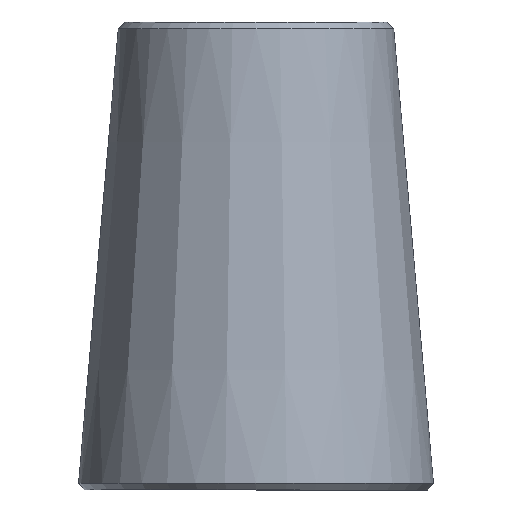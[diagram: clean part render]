
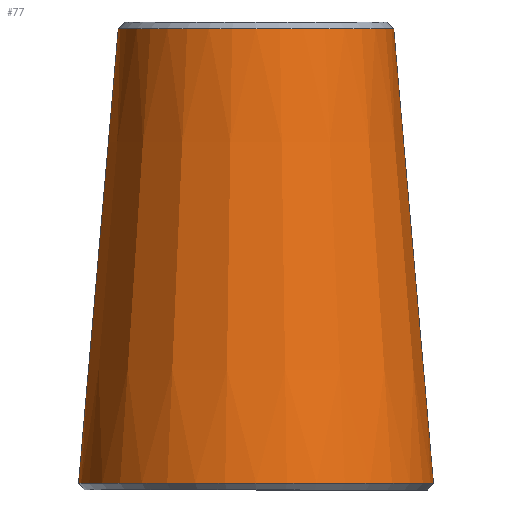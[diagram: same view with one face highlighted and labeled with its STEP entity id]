
A CAD part, left-side view. The second image highlights one B-rep face of the part: STEP entity #77.
In plain terms, the highlighted conical face has half-angle 5 degrees and reference radius 46.463 mm.
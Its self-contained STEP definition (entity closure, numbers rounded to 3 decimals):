
#20=FACE_BOUND('',#34,.T.);
#25=FACE_OUTER_BOUND('',#33,.T.);
#33=EDGE_LOOP('',(#63));
#34=EDGE_LOOP('',(#64));
#44=CIRCLE('',#87,52.326);
#45=CIRCLE('',#89,40.601);
#50=VERTEX_POINT('',#130);
#51=VERTEX_POINT('',#133);
#56=EDGE_CURVE('',#50,#50,#44,.T.);
#57=EDGE_CURVE('',#51,#51,#45,.T.);
#63=ORIENTED_EDGE('',*,*,#57,.F.);
#64=ORIENTED_EDGE('',*,*,#56,.F.);
#74=CONICAL_SURFACE('',#88,46.463,5.);
#77=ADVANCED_FACE('',(#25,#20),#74,.T.);
#87=AXIS2_PLACEMENT_3D('',#131,#104,#105);
#88=AXIS2_PLACEMENT_3D('',#132,#106,#107);
#89=AXIS2_PLACEMENT_3D('',#134,#108,#109);
#104=DIRECTION('center_axis',(0.,0.,
-1.));
#105=DIRECTION('ref_axis',(0.,1.,0.));
#106=DIRECTION('center_axis',(0.,0.,-1.));
#107=DIRECTION('ref_axis',(0.,-1.,0.));
#108=DIRECTION('center_axis',(0.,0.,
1.));
#109=DIRECTION('ref_axis',(0.,1.,0.));
#130=CARTESIAN_POINT('',(0.,-52.326,1.992));
#131=CARTESIAN_POINT('Origin',(0.,0.,
1.992));
#132=CARTESIAN_POINT('Origin',(0.,0.,69.));
#133=CARTESIAN_POINT('',(0.,-40.601,136.008));
#134=CARTESIAN_POINT('Origin',(0.,0.,
136.008));
